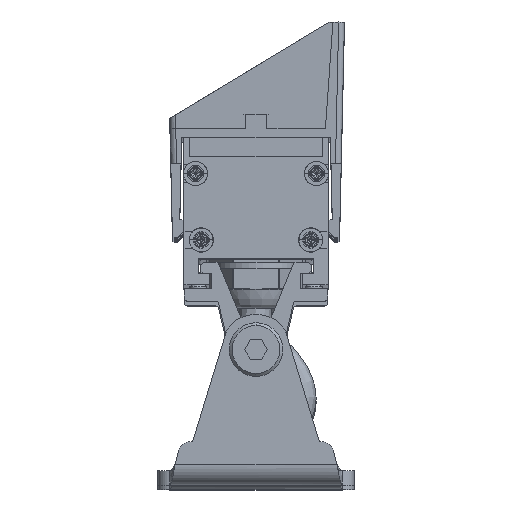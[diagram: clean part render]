
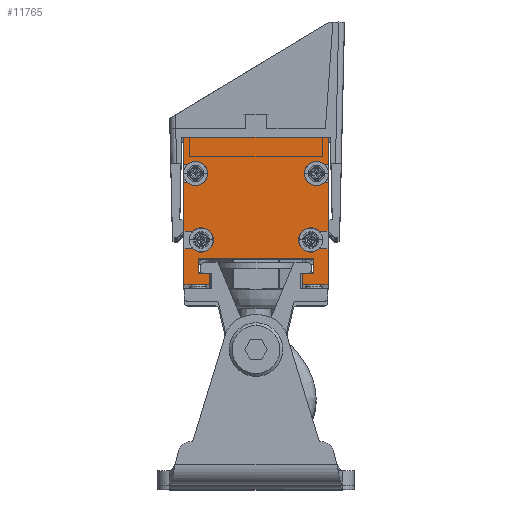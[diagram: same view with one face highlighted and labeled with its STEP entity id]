
A CAD part, top view. The second image highlights one B-rep face of the part: STEP entity #11765.
In plain terms, the highlighted planar face has unit normal (0, 0, 1) as drawn and (0, -1, 0) by its records, which use the part's own axes.
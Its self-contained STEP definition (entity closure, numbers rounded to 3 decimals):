
#6511=DIRECTION('',(-1.,0.,0.));
#6512=VECTOR('',#6511,20.);
#6513=CARTESIAN_POINT('',(10.,-503.5,8.813));
#6514=LINE('',#6513,#6512);
#8225=DIRECTION('',(1.,0.,0.));
#8226=VECTOR('',#8225,1.53);
#8227=CARTESIAN_POINT('',(-12.5,-503.5,7.013));
#8228=LINE('',#8227,#8226);
#8229=DIRECTION('',(0.,0.,1.));
#8230=VECTOR('',#8229,6.3);
#8231=CARTESIAN_POINT('',(-12.5,-503.5,7.013));
#8232=LINE('',#8231,#8230);
#8233=DIRECTION('',(0.,0.,-1.));
#8234=VECTOR('',#8233,6.3);
#8235=CARTESIAN_POINT('',(12.5,-503.5,13.313));
#8236=LINE('',#8235,#8234);
#8237=DIRECTION('',(-1.,0.,0.));
#8238=VECTOR('',#8237,1.53);
#8239=CARTESIAN_POINT('',(12.5,-503.5,7.013));
#8240=LINE('',#8239,#8238);
#8241=CARTESIAN_POINT('',(9.5,-503.5,5.513));
#8242=DIRECTION('',(0.,-1.,0.));
#8243=DIRECTION('',(0.7,0.,0.714));
#8244=AXIS2_PLACEMENT_3D('',#8241,#8242,#8243);
#8246=DIRECTION('',(-1.,0.,0.));
#8247=VECTOR('',#8246,1.53);
#8248=CARTESIAN_POINT('',(12.5,-503.5,4.013));
#8249=LINE('',#8248,#8247);
#8250=DIRECTION('',(0.,0.,-1.));
#8251=VECTOR('',#8250,8.513);
#8252=CARTESIAN_POINT('',(12.5,-503.5,4.013));
#8253=LINE('',#8252,#8251);
#8254=DIRECTION('',(-1.,0.,0.));
#8255=VECTOR('',#8254,0.53);
#8256=CARTESIAN_POINT('',(12.5,-503.5,-4.5));
#8257=LINE('',#8256,#8255);
#8258=CARTESIAN_POINT('',(10.5,-503.5,-6.));
#8259=DIRECTION('',(0.,-1.,0.));
#8260=DIRECTION('',(0.7,0.,0.714));
#8261=AXIS2_PLACEMENT_3D('',#8258,#8259,#8260);
#8263=DIRECTION('',(-1.,0.,0.));
#8264=VECTOR('',#8263,0.53);
#8265=CARTESIAN_POINT('',(12.5,-503.5,-7.5));
#8266=LINE('',#8265,#8264);
#8267=DIRECTION('',(0.,0.,-1.));
#8268=VECTOR('',#8267,4.787);
#8269=CARTESIAN_POINT('',(12.5,-503.5,-7.5));
#8270=LINE('',#8269,#8268);
#8271=DIRECTION('',(0.,0.,1.));
#8272=VECTOR('',#8271,4.787);
#8273=CARTESIAN_POINT('',(-12.5,-503.5,-12.287));
#8274=LINE('',#8273,#8272);
#8275=DIRECTION('',(1.,0.,0.));
#8276=VECTOR('',#8275,0.53);
#8277=CARTESIAN_POINT('',(-12.5,-503.5,-7.5));
#8278=LINE('',#8277,#8276);
#8279=CARTESIAN_POINT('',(-10.5,-503.5,-6.));
#8280=DIRECTION('',(0.,-1.,0.));
#8281=DIRECTION('',(-0.7,0.,-0.714));
#8282=AXIS2_PLACEMENT_3D('',#8279,#8280,#8281);
#8284=DIRECTION('',(1.,0.,0.));
#8285=VECTOR('',#8284,0.53);
#8286=CARTESIAN_POINT('',(-12.5,-503.5,-4.5));
#8287=LINE('',#8286,#8285);
#8288=DIRECTION('',(0.,0.,1.));
#8289=VECTOR('',#8288,8.513);
#8290=CARTESIAN_POINT('',(-12.5,-503.5,-4.5));
#8291=LINE('',#8290,#8289);
#8292=DIRECTION('',(1.,0.,0.));
#8293=VECTOR('',#8292,1.53);
#8294=CARTESIAN_POINT('',(-12.5,-503.5,4.013));
#8295=LINE('',#8294,#8293);
#8296=CARTESIAN_POINT('',(-9.5,-503.5,5.513));
#8297=DIRECTION('',(0.,-1.,0.));
#8298=DIRECTION('',(-0.7,0.,-0.714));
#8299=AXIS2_PLACEMENT_3D('',#8296,#8297,#8298);
#8409=DIRECTION('',(1.,0.,0.));
#8410=VECTOR('',#8409,25.);
#8411=CARTESIAN_POINT('',(-12.5,-503.5,-12.287));
#8412=LINE('',#8411,#8410);
#8599=DIRECTION('',(-1.,0.,0.));
#8600=VECTOR('',#8599,4.5);
#8601=CARTESIAN_POINT('',(-8.,-503.5,13.313));
#8602=LINE('',#8601,#8600);
#8607=DIRECTION('',(0.,0.,1.));
#8608=VECTOR('',#8607,2.);
#8609=CARTESIAN_POINT('',(-8.,-503.5,11.313));
#8610=LINE('',#8609,#8608);
#8615=DIRECTION('',(1.,0.,0.));
#8616=VECTOR('',#8615,2.);
#8617=CARTESIAN_POINT('',(-10.,-503.5,11.313));
#8618=LINE('',#8617,#8616);
#8623=DIRECTION('',(0.,0.,1.));
#8624=VECTOR('',#8623,2.5);
#8625=CARTESIAN_POINT('',(-10.,-503.5,8.813));
#8626=LINE('',#8625,#8624);
#8649=DIRECTION('',(0.,0.,-1.));
#8650=VECTOR('',#8649,2.5);
#8651=CARTESIAN_POINT('',(10.,-503.5,11.313));
#8652=LINE('',#8651,#8650);
#8653=DIRECTION('',(1.,0.,0.));
#8654=VECTOR('',#8653,2.);
#8655=CARTESIAN_POINT('',(8.,-503.5,11.313));
#8656=LINE('',#8655,#8654);
#8661=DIRECTION('',(0.,0.,-1.));
#8662=VECTOR('',#8661,2.);
#8663=CARTESIAN_POINT('',(8.,-503.5,13.313));
#8664=LINE('',#8663,#8662);
#8669=DIRECTION('',(-1.,0.,0.));
#8670=VECTOR('',#8669,4.5);
#8671=CARTESIAN_POINT('',(12.5,-503.5,13.313));
#8672=LINE('',#8671,#8670);
#8705=CARTESIAN_POINT('',(-10.,-503.5,8.813));
#8706=VERTEX_POINT('',#8705);
#8707=CARTESIAN_POINT('',(10.,-503.5,8.813));
#8708=VERTEX_POINT('',#8707);
#8709=CARTESIAN_POINT('',(-10.,-503.5,11.313));
#8710=VERTEX_POINT('',#8709);
#8711=CARTESIAN_POINT('',(-8.,-503.5,11.313));
#8712=CARTESIAN_POINT('',(-8.,-503.5,13.313));
#8713=VERTEX_POINT('',#8711);
#8714=VERTEX_POINT('',#8712);
#8715=CARTESIAN_POINT('',(10.,-503.5,11.313));
#8716=VERTEX_POINT('',#8715);
#8717=CARTESIAN_POINT('',(8.,-503.5,11.313));
#8718=VERTEX_POINT('',#8717);
#8719=CARTESIAN_POINT('',(8.,-503.5,13.313));
#8720=VERTEX_POINT('',#8719);
#8721=CARTESIAN_POINT('',(-12.5,-503.5,-12.287));
#8722=CARTESIAN_POINT('',(12.5,-503.5,-12.287));
#8723=VERTEX_POINT('',#8721);
#8724=VERTEX_POINT('',#8722);
#8725=CARTESIAN_POINT('',(12.5,-503.5,13.313));
#8726=VERTEX_POINT('',#8725);
#8727=CARTESIAN_POINT('',(-12.5,-503.5,13.313));
#8728=VERTEX_POINT('',#8727);
#8757=CARTESIAN_POINT('',(-12.5,-503.5,7.013));
#8758=CARTESIAN_POINT('',(-10.97,-503.5,7.013));
#8759=VERTEX_POINT('',#8757);
#8760=VERTEX_POINT('',#8758);
#8761=CARTESIAN_POINT('',(-12.5,-503.5,4.013));
#8762=CARTESIAN_POINT('',(-10.97,-503.5,4.013));
#8763=VERTEX_POINT('',#8761);
#8764=VERTEX_POINT('',#8762);
#8765=CARTESIAN_POINT('',(-12.5,-503.5,-4.5));
#8766=CARTESIAN_POINT('',(-11.97,-503.5,-4.5));
#8767=VERTEX_POINT('',#8765);
#8768=VERTEX_POINT('',#8766);
#8769=CARTESIAN_POINT('',(-12.5,-503.5,-7.5));
#8770=CARTESIAN_POINT('',(-11.97,-503.5,-7.5));
#8771=VERTEX_POINT('',#8769);
#8772=VERTEX_POINT('',#8770);
#8773=CARTESIAN_POINT('',(10.97,-503.5,7.013));
#8774=CARTESIAN_POINT('',(10.97,-503.5,4.013));
#8775=VERTEX_POINT('',#8773);
#8776=VERTEX_POINT('',#8774);
#8777=CARTESIAN_POINT('',(12.5,-503.5,4.013));
#8778=VERTEX_POINT('',#8777);
#8779=CARTESIAN_POINT('',(12.5,-503.5,7.013));
#8780=VERTEX_POINT('',#8779);
#8781=CARTESIAN_POINT('',(11.97,-503.5,-4.5));
#8782=CARTESIAN_POINT('',(11.97,-503.5,-7.5));
#8783=VERTEX_POINT('',#8781);
#8784=VERTEX_POINT('',#8782);
#8785=CARTESIAN_POINT('',(12.5,-503.5,-7.5));
#8786=VERTEX_POINT('',#8785);
#8787=CARTESIAN_POINT('',(12.5,-503.5,-4.5));
#8788=VERTEX_POINT('',#8787);
#11710=CARTESIAN_POINT('',(0.,-503.5,0.323));
#11711=DIRECTION('',(0.,-1.,0.));
#11712=DIRECTION('',(1.,0.,0.));
#11713=AXIS2_PLACEMENT_3D('',#11710,#11711,#11712);
#11714=PLANE('',#11713);
#11716=ORIENTED_EDGE('',*,*,#11715,.F.);
#11718=ORIENTED_EDGE('',*,*,#11717,.T.);
#11720=ORIENTED_EDGE('',*,*,#11719,.F.);
#11722=ORIENTED_EDGE('',*,*,#11721,.F.);
#11724=ORIENTED_EDGE('',*,*,#11723,.F.);
#11726=ORIENTED_EDGE('',*,*,#11725,.F.);
#11727=ORIENTED_EDGE('',*,*,#9372,.F.);
#11729=ORIENTED_EDGE('',*,*,#11728,.F.);
#11731=ORIENTED_EDGE('',*,*,#11730,.F.);
#11733=ORIENTED_EDGE('',*,*,#11732,.F.);
#11735=ORIENTED_EDGE('',*,*,#11734,.F.);
#11736=ORIENTED_EDGE('',*,*,#11604,.T.);
#11738=ORIENTED_EDGE('',*,*,#11737,.T.);
#11739=ORIENTED_EDGE('',*,*,#11566,.T.);
#11740=ORIENTED_EDGE('',*,*,#11582,.F.);
#11741=ORIENTED_EDGE('',*,*,#11598,.T.);
#11743=ORIENTED_EDGE('',*,*,#11742,.T.);
#11744=ORIENTED_EDGE('',*,*,#11689,.T.);
#11745=ORIENTED_EDGE('',*,*,#11704,.F.);
#11746=ORIENTED_EDGE('',*,*,#11611,.T.);
#11748=ORIENTED_EDGE('',*,*,#11747,.F.);
#11750=ORIENTED_EDGE('',*,*,#11749,.T.);
#11752=ORIENTED_EDGE('',*,*,#11751,.T.);
#11754=ORIENTED_EDGE('',*,*,#11753,.T.);
#11756=ORIENTED_EDGE('',*,*,#11755,.F.);
#11758=ORIENTED_EDGE('',*,*,#11757,.T.);
#11760=ORIENTED_EDGE('',*,*,#11759,.T.);
#11762=ORIENTED_EDGE('',*,*,#11761,.T.);
#11763=EDGE_LOOP('',(#11716,#11718,#11720,#11722,#11724,#11726,#11727,#11729,
#11731,#11733,#11735,#11736,#11738,#11739,#11740,#11741,#11743,#11744,#11745,
#11746,#11748,#11750,#11752,#11754,#11756,#11758,#11760,#11762));
#11764=FACE_OUTER_BOUND('',#11763,.F.);
#11765=ADVANCED_FACE('',(#11764),#11714,.T.);
#8245=CIRCLE('',#8244,2.1);
#8262=CIRCLE('',#8261,2.1);
#8283=CIRCLE('',#8282,2.1);
#8300=CIRCLE('',#8299,2.1);
#9372=EDGE_CURVE('',#8708,#8706,#6514,.T.);
#11566=EDGE_CURVE('',#8775,#8776,#8245,.T.);
#11582=EDGE_CURVE('',#8778,#8776,#8249,.T.);
#11598=EDGE_CURVE('',#8778,#8788,#8253,.T.);
#11604=EDGE_CURVE('',#8726,#8780,#8236,.T.);
#11611=EDGE_CURVE('',#8786,#8724,#8270,.T.);
#11689=EDGE_CURVE('',#8783,#8784,#8262,.T.);
#11704=EDGE_CURVE('',#8786,#8784,#8266,.T.);
#11715=EDGE_CURVE('',#8759,#8760,#8228,.T.);
#11717=EDGE_CURVE('',#8759,#8728,#8232,.T.);
#11719=EDGE_CURVE('',#8714,#8728,#8602,.T.);
#11721=EDGE_CURVE('',#8713,#8714,#8610,.T.);
#11723=EDGE_CURVE('',#8710,#8713,#8618,.T.);
#11725=EDGE_CURVE('',#8706,#8710,#8626,.T.);
#11728=EDGE_CURVE('',#8716,#8708,#8652,.T.);
#11730=EDGE_CURVE('',#8718,#8716,#8656,.T.);
#11732=EDGE_CURVE('',#8720,#8718,#8664,.T.);
#11734=EDGE_CURVE('',#8726,#8720,#8672,.T.);
#11737=EDGE_CURVE('',#8780,#8775,#8240,.T.);
#11742=EDGE_CURVE('',#8788,#8783,#8257,.T.);
#11747=EDGE_CURVE('',#8723,#8724,#8412,.T.);
#11749=EDGE_CURVE('',#8723,#8771,#8274,.T.);
#11751=EDGE_CURVE('',#8771,#8772,#8278,.T.);
#11753=EDGE_CURVE('',#8772,#8768,#8283,.T.);
#11755=EDGE_CURVE('',#8767,#8768,#8287,.T.);
#11757=EDGE_CURVE('',#8767,#8763,#8291,.T.);
#11759=EDGE_CURVE('',#8763,#8764,#8295,.T.);
#11761=EDGE_CURVE('',#8764,#8760,#8300,.T.);
